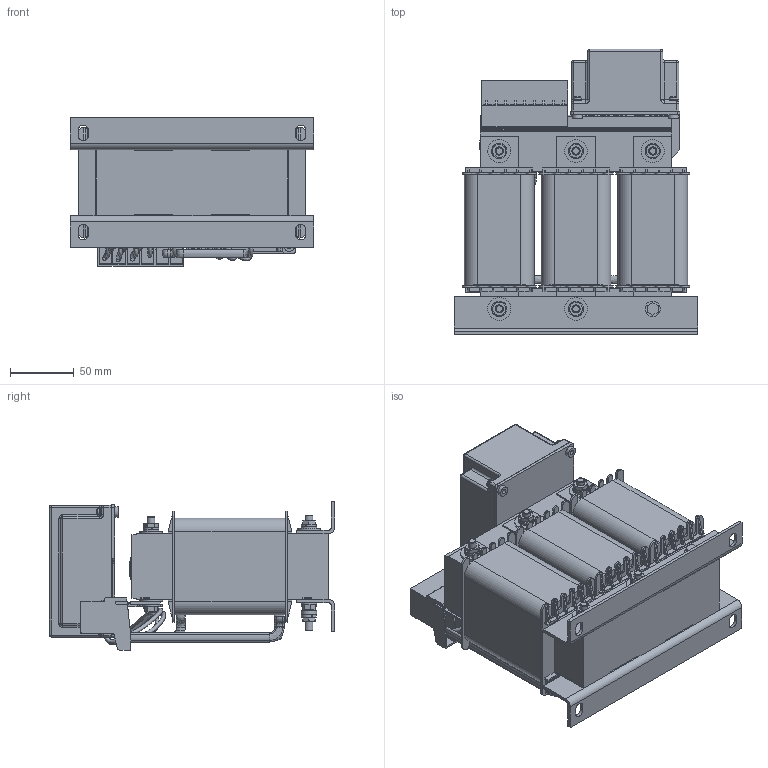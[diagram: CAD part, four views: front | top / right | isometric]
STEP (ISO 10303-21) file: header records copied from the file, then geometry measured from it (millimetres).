
FILE_DESCRIPTION((''),'2;1');
FILE_NAME('K:\PQ\Projects\000062 STEFFI Sinewave filter range\STEFFI FN5040\FN5040-24-84(810264)\70_Realisation_Rev 0\702_MechanicalDesign\3D\assembly.stp','2012-09-06T09:51:19',('jingli.yang'),(''),'Autodesk Inventor 2010','Autodesk Inventor 2010','');
FILE_SCHEMA(('AUTOMOTIVE_DESIGN { 1 0 10303 214 1 1 1 1 }'));
Length unit declared in the file: millimetre
Products named in the file (1): 零件4
Bounding box: 190 x 222.85 x 116.27 mm (x, y, z)
Volume: 1727191.8 mm3; surface area: 433772.8 mm2
Topology: 11 solids, 14 shells, 2265 faces, 5902 edges, 3715 vertices
Faces by surface type: plane 1083, bspline 751, cylinder 373, sphere 28, torus 16, cone 14
Full cylindrical faces by diameter (mm): 3 x4, 3.2 x4, 3.8 x4, 5 x6, 6 x22, 6.4 x9, 7.8 x6, 8 x6, 8.024 x4, 8.4 x3, 8.5 x6, 9 x1, 10 x1
Entity records: 102142 total; most frequent: CARTESIAN_POINT 48104, ORIENTED_EDGE 11224, DIRECTION 9701, EDGE_CURVE 5615, VECTOR 3909, LINE 3909, VERTEX_POINT 3638, AXIS2_PLACEMENT_3D 2896
